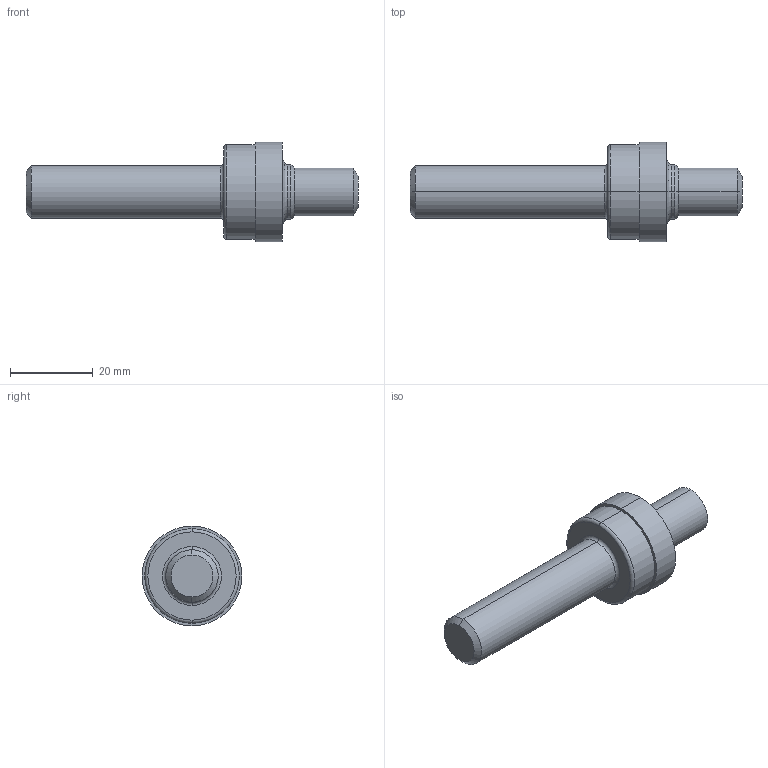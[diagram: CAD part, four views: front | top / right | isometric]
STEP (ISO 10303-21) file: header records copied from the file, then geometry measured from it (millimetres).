
FILE_DESCRIPTION (( 'STEP AP203' ), '1' );
FILE_NAME ('AS5202-05R.STEP', '2024-06-19T19:37:28', ( '' ), ( '' ), 'SwSTEP 2.0', 'SolidWorks 2022', '' );
FILE_SCHEMA (( 'CONFIG_CONTROL_DESIGN' ));
Length unit declared in the file: inch
Products named in the file (1): AS5202-05R
Bounding box: 80.26 x 24.13 x 24.13 mm (x, y, z)
Volume: 14136.2 mm3; surface area: 4395.8 mm2
Topology: 1 solids, 1 shells, 29 faces, 56 edges, 32 vertices
Faces by surface type: cylinder 10, cone 8, torus 6, plane 5
Entity records: 819 total; most frequent: DIRECTION 154, CARTESIAN_POINT 118, ORIENTED_EDGE 112, AXIS2_PLACEMENT_3D 68, EDGE_CURVE 56, CIRCLE 38, VERTEX_POINT 32, EDGE_LOOP 32
